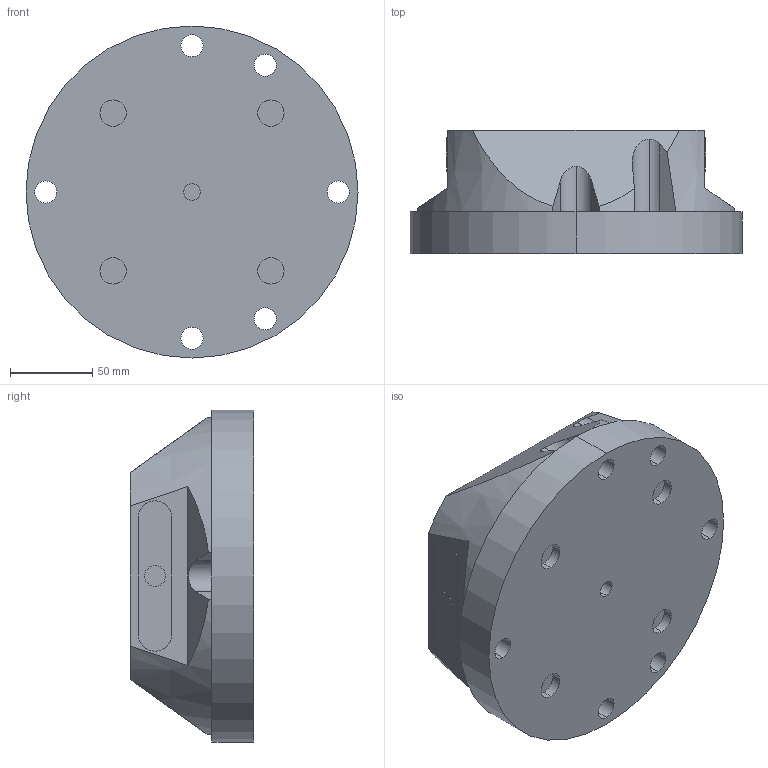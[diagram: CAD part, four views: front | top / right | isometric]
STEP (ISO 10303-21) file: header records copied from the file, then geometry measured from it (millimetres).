
FILE_DESCRIPTION (( 'STEP AP214' ), '1' );
FILE_NAME ('D_RL96A-38.STEP', '2020-03-11T16:07:57', ( '' ), ( '' ), 'SwSTEP 2.0', 'SolidWorks 2018', '' );
FILE_SCHEMA (( 'AUTOMOTIVE_DESIGN' ));
Length unit declared in the file: millimetre
Products named in the file (1): D_RL96A-38
Bounding box: 201.93 x 75 x 201.93 mm (x, y, z)
Volume: 1765299 mm3; surface area: 149116.2 mm2
Topology: 1 solids, 1 shells, 216 faces, 522 edges, 348 vertices
Faces by surface type: cylinder 126, plane 84, cone 6
Entity records: 7626 total; most frequent: CARTESIAN_POINT 1815, DIRECTION 1148, ORIENTED_EDGE 1044, EDGE_CURVE 522, AXIS2_PLACEMENT_3D 473, VERTEX_POINT 348, EDGE_LOOP 276, CIRCLE 256
